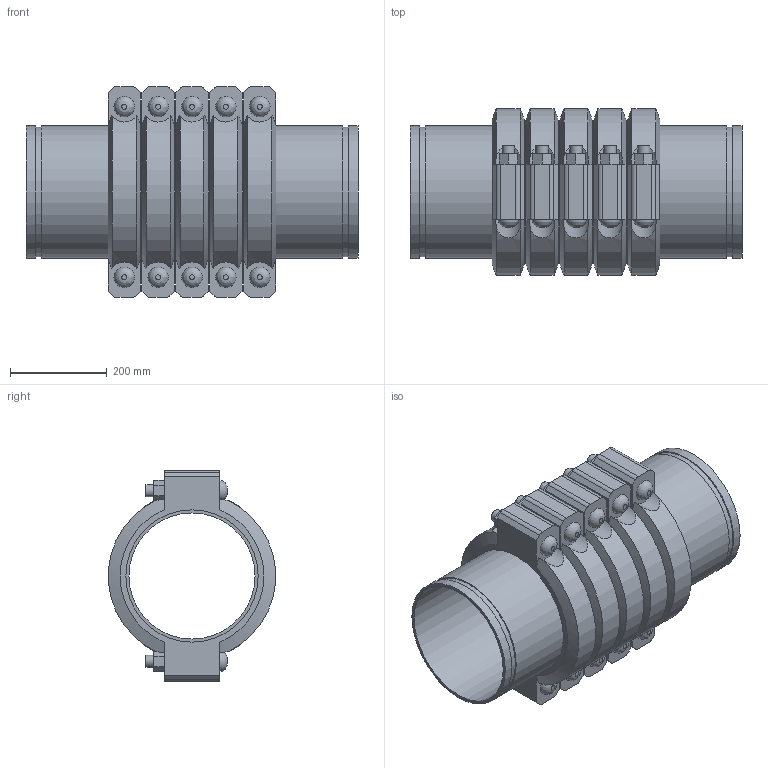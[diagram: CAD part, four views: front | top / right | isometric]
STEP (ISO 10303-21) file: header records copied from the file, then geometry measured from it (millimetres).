
FILE_DESCRIPTION(/* description */ ('VIC EXPANSION JOINT 5 COUPLINGS COMPRESSED STYLE 155 (OGS)','CAx-IF Rec.Pracs.---Representation and Presentation of Product Manufacturing Information (PMI)---4.0---2014-10-13'),/* implementation_level */ '2;1');
FILE_NAME(/* name */ 'C:\Users\kkamble\AppData\Roaming\Autodesk\ApplicationPlugins\Victaulic.Temp\A136\Victaulic_IPS_Expansion Joint_Compressed_5 Couplings_Style 155 (OGS)_10 (250).stp',/* time_stamp */ '2021-06-27T00:30:11+02:00',/* author */ ('kkamble'),/* organization */ ('Victaulic'),/* preprocessor_version */ 'ST-DEVELOPER v17.2',/* originating_system */ 'Autodesk Inventor 2019',/* authorisation */ '');
FILE_SCHEMA (('AP242_MANAGED_MODEL_BASED_3D_ENGINEERING_MIM_LF { 1 0 10303 442 1 1 4 }'));
Length unit declared in the file: inch
Products named in the file (4): 155-10.0; Nipple-10.0; Nipple-10.0_1; 077-5 Coup-10.0
Assembly tree (11 placements, depth 2):
  155-10.0
    Nipple-10.0  x2
    Nipple-10.0_1  x4
    077-5 Coup-10.0  x5
Bounding box: 685.8 x 344.9 x 435.1 mm (x, y, z)
Volume: 17941184.5 mm3; surface area: 2653018.1 mm2
Topology: 11 solids, 21 shells, 377 faces, 905 edges, 634 vertices
Faces by surface type: plane 216, cylinder 131, cone 20, bspline 10
Full cylindrical faces by diameter (mm): 25.4 x20, 27.432 x10, 260.35 x6, 264.16 x5, 268.275 x12, 273.05 x28
Entity records: 3082 total; most frequent: CARTESIAN_POINT 675, DIRECTION 477, ORIENTED_EDGE 410, EDGE_CURVE 205, AXIS2_PLACEMENT_3D 194, VERTEX_POINT 146, EDGE_LOOP 111, CIRCLE 96
